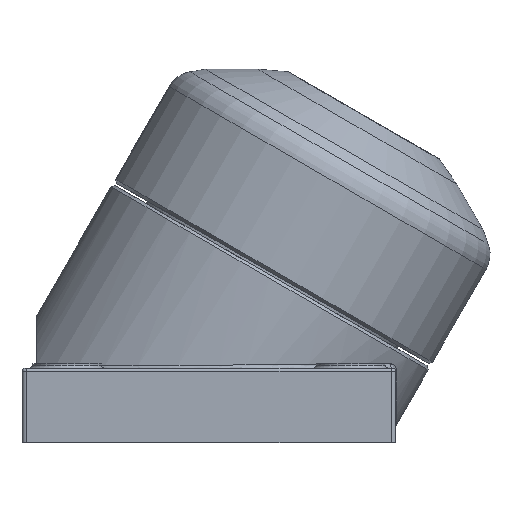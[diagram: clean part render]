
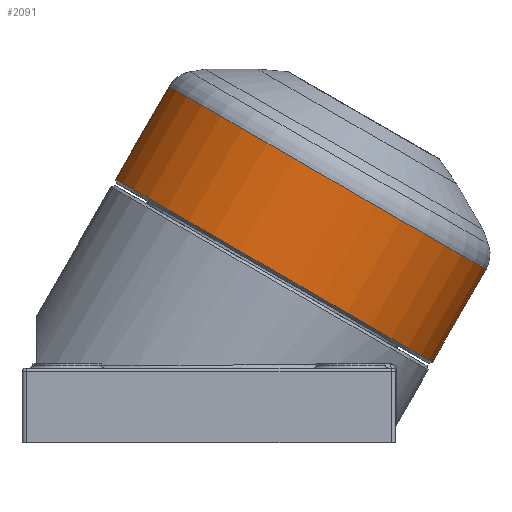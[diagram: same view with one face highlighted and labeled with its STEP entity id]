
A CAD part, left-side view. The second image highlights one B-rep face of the part: STEP entity #2091.
In plain terms, the highlighted cylindrical face has radius 122.5 mm (diameter 245 mm), a full revolution.
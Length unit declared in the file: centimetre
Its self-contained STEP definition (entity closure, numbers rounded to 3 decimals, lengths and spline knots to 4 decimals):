
#327=FACE_BOUND('',#703,.T.);
#464=FACE_OUTER_BOUND('',#702,.T.);
#702=EDGE_LOOP('',(#1656));
#703=EDGE_LOOP('',(#1657));
#887=CIRCLE('',#2355,12.25);
#888=CIRCLE('',#2357,12.25);
#1056=VERTEX_POINT('',#3898);
#1057=VERTEX_POINT('',#3901);
#1270=EDGE_CURVE('',#1056,#1056,#887,.T.);
#1271=EDGE_CURVE('',#1057,#1057,#888,.T.);
#1656=ORIENTED_EDGE('',*,*,#1270,.F.);
#1657=ORIENTED_EDGE('',*,*,#1271,.F.);
#1820=CYLINDRICAL_SURFACE('',#2356,12.25);
#2091=ADVANCED_FACE('',(#464,#327),#1820,.T.);
#2355=AXIS2_PLACEMENT_3D('',#3899,#2902,#2903);
#2356=AXIS2_PLACEMENT_3D('',#3900,#2904,#2905);
#2357=AXIS2_PLACEMENT_3D('',#3902,#2906,#2907);
#2902=DIRECTION('center_axis',(0.,-0.5,0.866));
#2903=DIRECTION('ref_axis',(-0.976,0.187,0.108));
#2904=DIRECTION('center_axis',(0.,-0.5,0.866));
#2905=DIRECTION('ref_axis',(0.976,-0.187,-0.108));
#2906=DIRECTION('center_axis',(0.,0.5,-0.866));
#2907=DIRECTION('ref_axis',(-0.976,0.187,0.108));
#3898=CARTESIAN_POINT('',(11.9608,-4.2319,16.4008));
#3899=CARTESIAN_POINT('Origin',(0.,-1.9404,17.7238));
#3900=CARTESIAN_POINT('Origin',(0.,-0.0977,
14.5322));
#3901=CARTESIAN_POINT('',(11.9608,-0.6466,10.1907));
#3902=CARTESIAN_POINT('Origin',(0.,1.645,11.5138));
